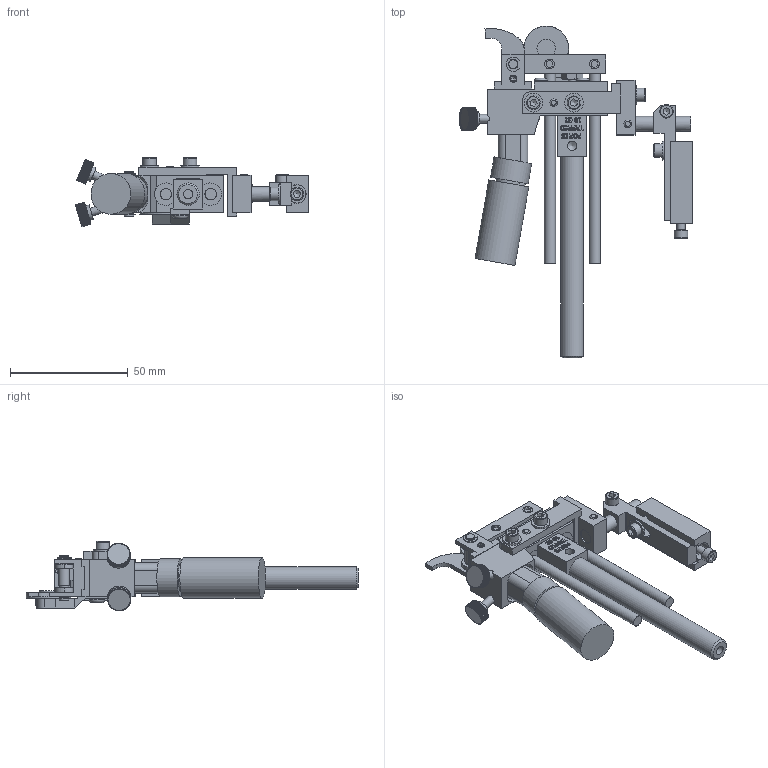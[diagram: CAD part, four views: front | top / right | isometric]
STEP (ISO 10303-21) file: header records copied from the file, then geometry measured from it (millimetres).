
FILE_DESCRIPTION((''),'2;1');
FILE_NAME('C:\Documents and Settings\Ron\My Documents\Inventor\Sprinter Drawing\Machines in Inventor\Model 22\Dot\1-eight\Ext Str\E1\Brkt\Ret\Model 22 ES1 1-8 dot ret w brkt.stp','2009-01-14T09:29:38',('Ron'),(''),'Autodesk Inventor 2008','Autodesk Inventor 2008','');
FILE_SCHEMA(('AUTOMOTIVE_DESIGN { 1 0 10303 214 1 1 1 1 }'));
Length unit declared in the file: inch
Products named in the file (1): Model 22 ES1  1-8 dot ret w brkt
Bounding box: 99.17 x 141.24 x 29.55 mm (x, y, z)
Volume: 59224.6 mm3; surface area: 34935 mm2
Topology: 33 solids, 33 shells, 4736 faces, 13136 edges, 8717 vertices
Faces by surface type: plane 2891, bspline 1290, cylinder 484, cone 57, torus 14
Full cylindrical faces by diameter (mm): 2.845 x3, 2.946 x2, 3.175 x5, 3.505 x7, 3.556 x2, 3.658 x2, 3.876 x1, 3.962 x9, 4.064 x1, 4.166 x3, 4.648 x2, 4.699 x1, 4.75 x1, 4.763 x2, 4.788 x1, 5.41 x2, 5.556 x1, 5.74 x6, 6.096 x1, 6.325 x2, 6.35 x3, 6.477 x1, 6.655 x1, 7.925 x4, 7.938 x1, 8.128 x1, 9.462 x1, 9.525 x1, 10.922 x1, 11.938 x1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
Entity records: 165489 total; most frequent: CARTESIAN_POINT 48996, ORIENTED_EDGE 25700, DIRECTION 18383, EDGE_CURVE 12850, VECTOR 9061, LINE 9061, VERTEX_POINT 8611, EDGE_LOOP 5259
